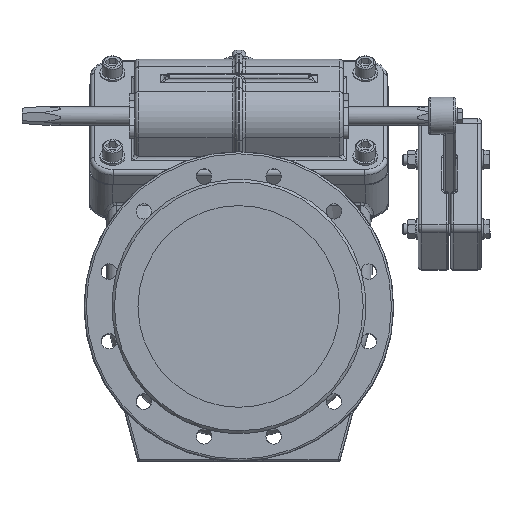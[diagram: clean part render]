
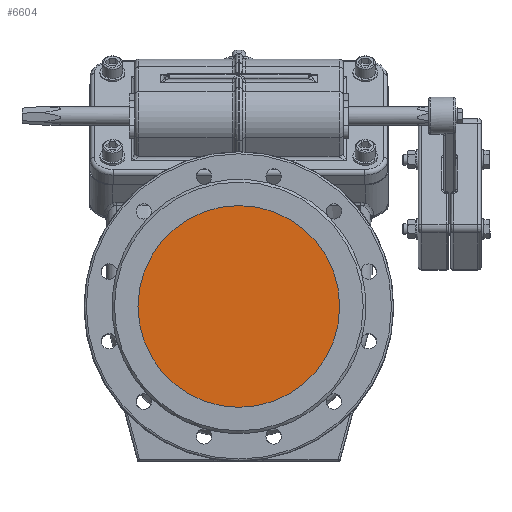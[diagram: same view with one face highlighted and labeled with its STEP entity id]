
A CAD part, top view. The second image highlights one B-rep face of the part: STEP entity #6604.
In plain terms, the highlighted planar face has unit normal (0, 0, 1).
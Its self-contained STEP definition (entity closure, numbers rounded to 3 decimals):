
#6604=ADVANCED_FACE('',(#21063),#21065,.F.);
#21063=FACE_BOUND('',#21064,.T.);
#21064=EDGE_LOOP('',(#31456));
#21065=PLANE('',#21066);
#21066=AXIS2_PLACEMENT_3D('',#21067,#21068,#21069);
#21067=CARTESIAN_POINT('',(0.,0.,340.));
#21068=DIRECTION('',(0.,0.,-1.));
#21069=DIRECTION('',(-1.,0.,0.));
#31456=ORIENTED_EDGE('',*,*,#35892,.T.);
#35892=EDGE_CURVE('',#40157,#40157,#40158,.T.);
#40157=VERTEX_POINT('',#65506);
#40158=CIRCLE('',#65507,150.);
#65506=CARTESIAN_POINT('',(0.,150.,340.));
#65507=AXIS2_PLACEMENT_3D('',#65508,#65509,#65510);
#65508=CARTESIAN_POINT('',(0.,0.,340.));
#65509=DIRECTION('',(0.,0.,1.));
#65510=DIRECTION('',(-1.,0.,0.));
